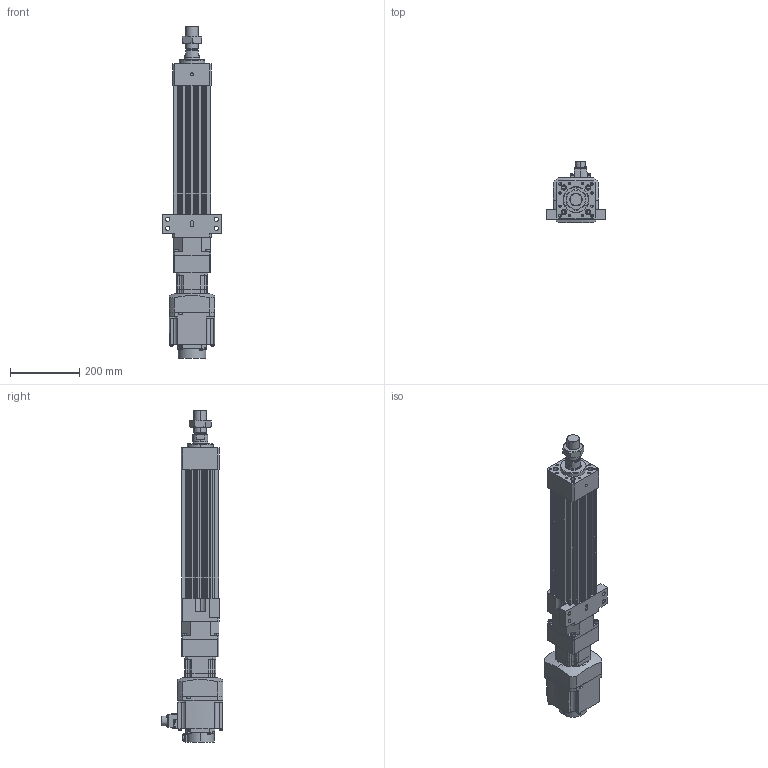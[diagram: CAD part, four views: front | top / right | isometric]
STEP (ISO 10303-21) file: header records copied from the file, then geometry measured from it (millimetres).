
FILE_DESCRIPTION (( 'STEP AP203' ), '1' );
FILE_NAME ('HES110NS(HS)-S200-W010G00-M-FFC.STEP', '2023-01-27T06:21:57', ( 'tms' ), ( '' ), 'SwSTEP 2.0', 'SolidWorks 2013', '' );
FILE_SCHEMA (( 'CONFIG_CONTROL_DESIGN' ));
Length unit declared in the file: millimetre
Products named in the file (8): HES110NS(HS)-S200-W010G00-M-FFC; HES110 ROD M ST200; M36X1.5P; P0401301004; AB090-003[HG-SR102B]; AB0901; HES110-S200-G090-FFC; HG-SR102
Assembly tree (7 placements, depth 3):
  HES110NS(HS)-S200-W010G00-M-FFC
    HES110-S200-G090-FFC
    HES110 ROD M ST200
    M36X1.5P
    AB090-003[HG-SR102B]
      AB0901
      P0401301004
    HG-SR102
Bounding box: 170 x 177.49 x 958.5 mm (x, y, z)
Volume: 6260781.7 mm3; surface area: 818588.5 mm2
Topology: 4 solids, 15 shells, 1217 faces, 3075 edges, 1984 vertices
Faces by surface type: plane 556, cylinder 547, cone 102, bspline 8, torus 4
Entity records: 38420 total; most frequent: CARTESIAN_POINT 7442, DIRECTION 6626, ORIENTED_EDGE 6054, EDGE_CURVE 3037, AXIS2_PLACEMENT_3D 2439, VERTEX_POINT 1984, LINE 1748, VECTOR 1748
